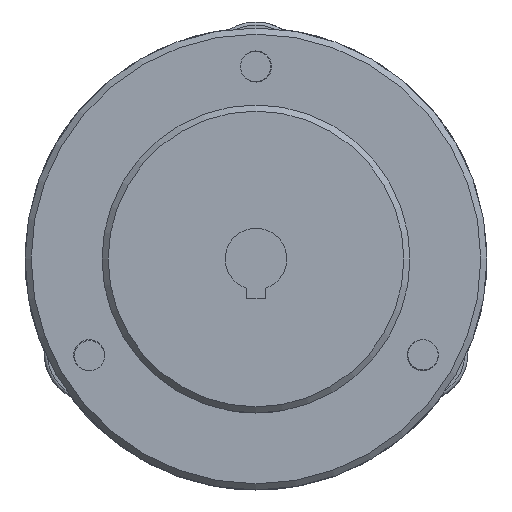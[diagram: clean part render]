
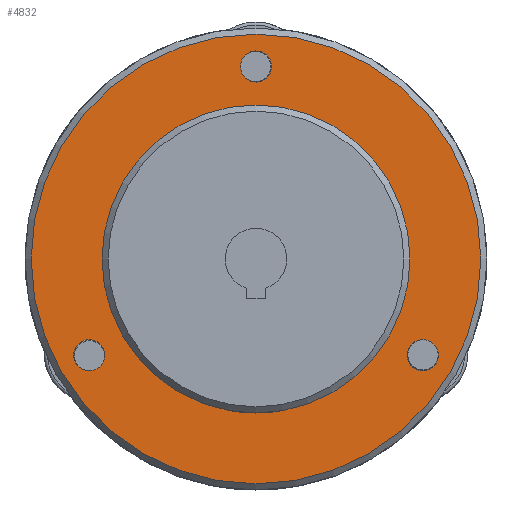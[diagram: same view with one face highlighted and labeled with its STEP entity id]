
A CAD part, left-side view. The second image highlights one B-rep face of the part: STEP entity #4832.
In plain terms, the highlighted planar face has unit normal (-1, 0, 0) as drawn and (0, 1, 0) by its records, which use the part's own axes.
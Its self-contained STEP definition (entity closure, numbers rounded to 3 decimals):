
#983=FACE_BOUND('',#1372,.T.);
#984=FACE_BOUND('',#1373,.T.);
#985=FACE_BOUND('',#1374,.T.);
#986=FACE_BOUND('',#1375,.T.);
#1057=FACE_OUTER_BOUND('',#1371,.T.);
#1371=EDGE_LOOP('',(#3330));
#1372=EDGE_LOOP('',(#3331));
#1373=EDGE_LOOP('',(#3332));
#1374=EDGE_LOOP('',(#3333));
#1375=EDGE_LOOP('',(#3334));
#1732=CIRCLE('',#5358,50.);
#1733=CIRCLE('',#5361,73.);
#1736=CIRCLE('',#5366,5.053);
#1737=CIRCLE('',#5367,5.053);
#1738=CIRCLE('',#5368,5.053);
#2090=VERTEX_POINT('',#7659);
#2094=VERTEX_POINT('',#7706);
#2097=VERTEX_POINT('',#7716);
#2098=VERTEX_POINT('',#7718);
#2099=VERTEX_POINT('',#7720);
#2555=EDGE_CURVE('',#2090,#2090,#1732,.T.);
#2559=EDGE_CURVE('',#2094,#2094,#1733,.T.);
#2564=EDGE_CURVE('',#2097,#2097,#1736,.T.);
#2565=EDGE_CURVE('',#2098,#2098,#1737,.T.);
#2566=EDGE_CURVE('',#2099,#2099,#1738,.T.);
#3330=ORIENTED_EDGE('',*,*,#2559,.F.);
#3331=ORIENTED_EDGE('',*,*,#2555,.F.);
#3332=ORIENTED_EDGE('',*,*,#2564,.T.);
#3333=ORIENTED_EDGE('',*,*,#2565,.T.);
#3334=ORIENTED_EDGE('',*,*,#2566,.T.);
#4733=PLANE('',#5365);
#4832=ADVANCED_FACE('',(#1057,#983,#984,#985,#986),#4733,.T.);
#5358=AXIS2_PLACEMENT_3D('',#7661,#6072,#6073);
#5361=AXIS2_PLACEMENT_3D('',#7707,#6078,#6079);
#5365=AXIS2_PLACEMENT_3D('',#7715,#6088,#6089);
#5366=AXIS2_PLACEMENT_3D('',#7717,#6090,#6091);
#5367=AXIS2_PLACEMENT_3D('',#7719,#6092,#6093);
#5368=AXIS2_PLACEMENT_3D('',#7721,#6094,#6095);
#6072=DIRECTION('center_axis',(0.,1.,0.));
#6073=DIRECTION('ref_axis',(-1.,0.,0.));
#6078=DIRECTION('center_axis',(0.,-1.,0.));
#6079=DIRECTION('ref_axis',(1.,0.,0.));
#6088=DIRECTION('center_axis',(0.,1.,0.));
#6089=DIRECTION('ref_axis',(0.,0.,1.));
#6090=DIRECTION('center_axis',(0.,-1.,0.));
#6091=DIRECTION('ref_axis',(1.,0.,0.));
#6092=DIRECTION('center_axis',(0.,-1.,0.));
#6093=DIRECTION('ref_axis',(1.,0.,0.));
#6094=DIRECTION('center_axis',(0.,-1.,0.));
#6095=DIRECTION('ref_axis',(1.,0.,0.));
#7659=CARTESIAN_POINT('',(50.,12.,0.));
#7661=CARTESIAN_POINT('Origin',(0.,12.,0.));
#7706=CARTESIAN_POINT('',(-73.,12.,0.));
#7707=CARTESIAN_POINT('Origin',(0.,12.,0.));
#7715=CARTESIAN_POINT('Origin',(-62.5,12.,0.));
#7716=CARTESIAN_POINT('',(-59.18,12.,-31.25));
#7717=CARTESIAN_POINT('Origin',(-54.127,12.,-31.25));
#7718=CARTESIAN_POINT('',(-5.053,12.,62.5));
#7719=CARTESIAN_POINT('Origin',(0.,12.,62.5));
#7720=CARTESIAN_POINT('',(49.074,12.,-31.25));
#7721=CARTESIAN_POINT('Origin',(54.127,12.,-31.25));
